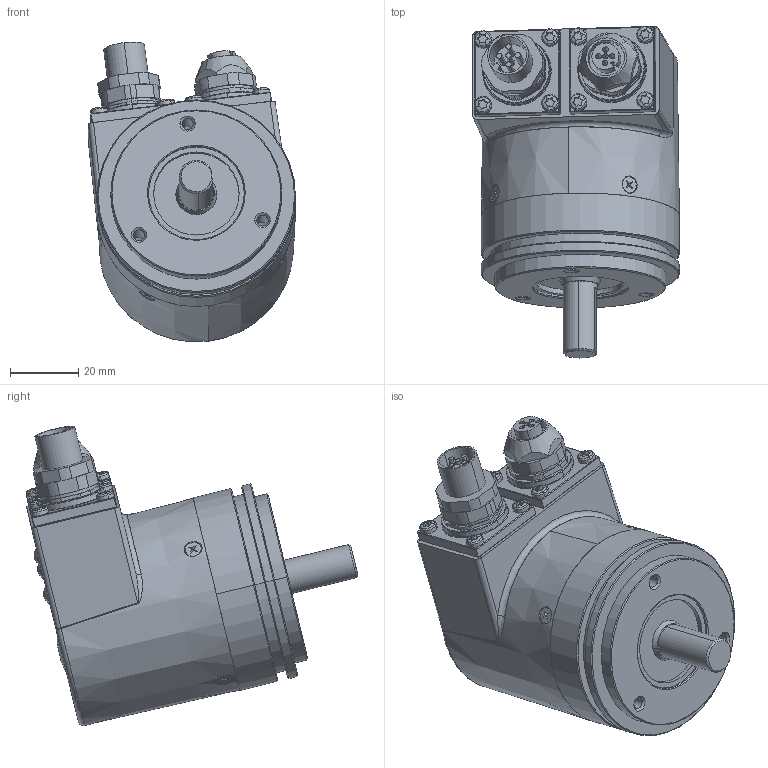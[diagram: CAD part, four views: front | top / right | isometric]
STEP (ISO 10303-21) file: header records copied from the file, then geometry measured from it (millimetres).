
FILE_DESCRIPTION (( 'STEP AP203' ), '1' );
FILE_NAME ('8.F5868.422F.2112.STEP', '2013-02-04T15:42:09', ( 'Hodot' ), ( '' ), 'SwSTEP 2.0', 'SolidWorks 2012', '' );
FILE_SCHEMA (( 'CONFIG_CONTROL_DESIGN' ));
Length unit declared in the file: millimetre
Products named in the file (1): 8.F5868.422F.2112
Bounding box: 60.56 x 97.05 x 87.68 mm (x, y, z)
Volume: 97387.6 mm3; surface area: 56831 mm2
Topology: 28 solids, 28 shells, 1325 faces, 3043 edges, 1848 vertices
Faces by surface type: plane 453, cylinder 440, cone 234, torus 128, sphere 41, bspline 29
Entity records: 39114 total; most frequent: CARTESIAN_POINT 8560, DIRECTION 6868, ORIENTED_EDGE 6030, EDGE_CURVE 3015, AXIS2_PLACEMENT_3D 2784, VERTEX_POINT 1848, CIRCLE 1487, EDGE_LOOP 1479
